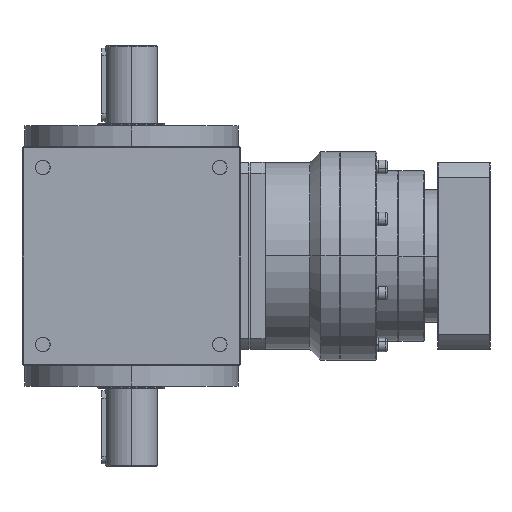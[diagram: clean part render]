
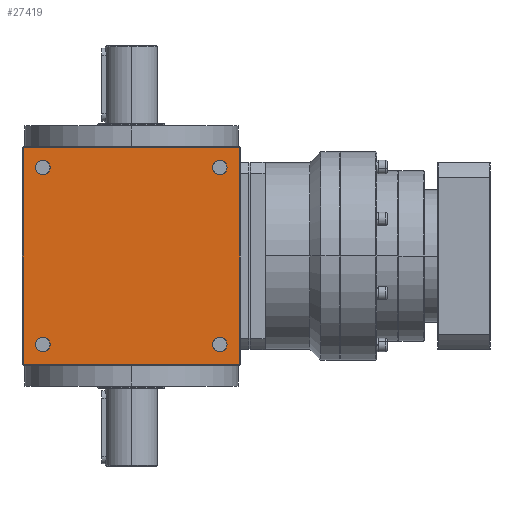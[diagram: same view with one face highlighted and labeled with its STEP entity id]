
A CAD part, left-side view. The second image highlights one B-rep face of the part: STEP entity #27419.
In plain terms, the highlighted planar face has unit normal (-1, 0, 0).
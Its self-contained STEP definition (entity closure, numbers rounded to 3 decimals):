
#363 = EDGE_CURVE ( 'NONE', #33959, #6062, #20639, .T. ) ;
#1979 = DIRECTION ( 'NONE',  ( 1., 0., 0. ) ) ;
#2288 = DIRECTION ( 'NONE',  ( 1., 0., 0. ) ) ;
#2766 = ORIENTED_EDGE ( 'NONE', *, *, #33970, .F. ) ;
#2853 = DIRECTION ( 'NONE',  ( 0., 0., 1. ) ) ;
#3125 = ORIENTED_EDGE ( 'NONE', *, *, #17263, .T. ) ;
#3466 = CARTESIAN_POINT ( 'NONE',  ( -105., 104., -104. ) ) ;
#3792 = DIRECTION ( 'NONE',  ( 0., 0., 1. ) ) ;
#4177 = VERTEX_POINT ( 'NONE', #6520 ) ;
#4468 = VERTEX_POINT ( 'NONE', #11828 ) ;
#4799 = CIRCLE ( 'NONE', #23836, 7. ) ;
#4985 = ORIENTED_EDGE ( 'NONE', *, *, #23437, .T. ) ;
#5572 = ORIENTED_EDGE ( 'NONE', *, *, #26301, .T. ) ;
#5775 = EDGE_LOOP ( 'NONE', ( #5572, #30427 ) ) ;
#5927 = VERTEX_POINT ( 'NONE', #15863 ) ;
#6062 = VERTEX_POINT ( 'NONE', #3466 ) ;
#6407 = AXIS2_PLACEMENT_3D ( 'NONE', #27458, #30232, #33871 ) ;
#6520 = CARTESIAN_POINT ( 'NONE',  ( -105., -85., 78. ) ) ;
#6638 = FACE_BOUND ( 'NONE', #40180, .T. ) ;
#6670 = DIRECTION ( 'NONE',  ( 0., 0., 1. ) ) ;
#6776 = CARTESIAN_POINT ( 'NONE',  ( -105., 85., 85. ) ) ;
#7060 = VERTEX_POINT ( 'NONE', #38900 ) ;
#8300 = CARTESIAN_POINT ( 'NONE',  ( -105., -104., 104. ) ) ;
#8910 = AXIS2_PLACEMENT_3D ( 'NONE', #20273, #13442, #29834 ) ;
#9349 = CARTESIAN_POINT ( 'NONE',  ( -105., 0., 104. ) ) ;
#9645 = FACE_BOUND ( 'NONE', #34473, .T. ) ;
#10042 = CARTESIAN_POINT ( 'NONE',  ( -105., -85., -78. ) ) ;
#10496 = CIRCLE ( 'NONE', #30915, 7. ) ;
#10697 = VERTEX_POINT ( 'NONE', #24180 ) ;
#10890 = AXIS2_PLACEMENT_3D ( 'NONE', #37393, #1979, #31621 ) ;
#10921 = VECTOR ( 'NONE', #22358, 1000. ) ;
#11034 = DIRECTION ( 'NONE',  ( 0., 0., -1. ) ) ;
#11828 = CARTESIAN_POINT ( 'NONE',  ( -105., -85., -92. ) ) ;
#12322 = CIRCLE ( 'NONE', #8910, 7. ) ;
#12553 = LINE ( 'NONE', #9349, #10921 ) ;
#12669 = CIRCLE ( 'NONE', #17426, 7. ) ;
#12882 = CARTESIAN_POINT ( 'NONE',  ( -105., 85., -85. ) ) ;
#13094 = CARTESIAN_POINT ( 'NONE',  ( -105., -104., -105. ) ) ;
#13224 = EDGE_CURVE ( 'NONE', #13965, #14263, #35497, .T. ) ;
#13257 = VECTOR ( 'NONE', #11034, 1000. ) ;
#13442 = DIRECTION ( 'NONE',  ( 1., 0., 0. ) ) ;
#13801 = CARTESIAN_POINT ( 'NONE',  ( -105., 104., -105. ) ) ;
#13965 = VERTEX_POINT ( 'NONE', #24539 ) ;
#14244 = ORIENTED_EDGE ( 'NONE', *, *, #13224, .T. ) ;
#14263 = VERTEX_POINT ( 'NONE', #8300 ) ;
#15599 = FACE_BOUND ( 'NONE', #5775, .T. ) ;
#15829 = EDGE_LOOP ( 'NONE', ( #3125, #24897 ) ) ;
#15863 = CARTESIAN_POINT ( 'NONE',  ( -105., 85., 78. ) ) ;
#16178 = DIRECTION ( 'NONE',  ( 1., 0., 0. ) ) ;
#16302 = ORIENTED_EDGE ( 'NONE', *, *, #33080, .T. ) ;
#16315 = CARTESIAN_POINT ( 'NONE',  ( -105., 105., -104. ) ) ;
#17263 = EDGE_CURVE ( 'NONE', #19210, #5927, #4799, .T. ) ;
#17426 = AXIS2_PLACEMENT_3D ( 'NONE', #12882, #39324, #38916 ) ;
#17624 = CIRCLE ( 'NONE', #21630, 7. ) ;
#17957 = VERTEX_POINT ( 'NONE', #10042 ) ;
#19210 = VERTEX_POINT ( 'NONE', #29694 ) ;
#19653 = FACE_BOUND ( 'NONE', #15829, .T. ) ;
#19734 = DIRECTION ( 'NONE',  ( 0., 1., 0. ) ) ;
#19970 = CARTESIAN_POINT ( 'NONE',  ( -105., 85., -78. ) ) ;
#20273 = CARTESIAN_POINT ( 'NONE',  ( -105., -85., 85. ) ) ;
#20639 = LINE ( 'NONE', #13801, #13257 ) ;
#21630 = AXIS2_PLACEMENT_3D ( 'NONE', #33015, #26184, #3792 ) ;
#21684 = EDGE_CURVE ( 'NONE', #5927, #19210, #39106, .T. ) ;
#21858 = EDGE_CURVE ( 'NONE', #4468, #17957, #10496, .T. ) ;
#22358 = DIRECTION ( 'NONE',  ( 0., 1., 0. ) ) ;
#22655 = PLANE ( 'NONE',  #42067 ) ;
#23437 = EDGE_CURVE ( 'NONE', #26686, #10697, #12669, .T. ) ;
#23836 = AXIS2_PLACEMENT_3D ( 'NONE', #6776, #16178, #32170 ) ;
#24180 = CARTESIAN_POINT ( 'NONE',  ( -105., 85., -92. ) ) ;
#24539 = CARTESIAN_POINT ( 'NONE',  ( -105., -104., -104. ) ) ;
#24897 = ORIENTED_EDGE ( 'NONE', *, *, #21684, .T. ) ;
#26184 = DIRECTION ( 'NONE',  ( 1., 0., 0. ) ) ;
#26301 = EDGE_CURVE ( 'NONE', #17957, #4468, #17624, .T. ) ;
#26686 = VERTEX_POINT ( 'NONE', #19970 ) ;
#26999 = EDGE_LOOP ( 'NONE', ( #14244, #39493, #40148, #2766 ) ) ;
#27419 = ADVANCED_FACE ( 'NONE', ( #29021, #9645, #6638, #15599, #19653 ), #22655, .T. ) ;
#27458 = CARTESIAN_POINT ( 'NONE',  ( -105., 85., 85. ) ) ;
#27864 = VECTOR ( 'NONE', #19734, 1000. ) ;
#28721 = DIRECTION ( 'NONE',  ( 0., 0., 1. ) ) ;
#29021 = FACE_OUTER_BOUND ( 'NONE', #26999, .T. ) ;
#29257 = CARTESIAN_POINT ( 'NONE',  ( -105., -85., 85. ) ) ;
#29694 = CARTESIAN_POINT ( 'NONE',  ( -105., 85., 92. ) ) ;
#29834 = DIRECTION ( 'NONE',  ( 0., 0., 1. ) ) ;
#29840 = ORIENTED_EDGE ( 'NONE', *, *, #34962, .T. ) ;
#30232 = DIRECTION ( 'NONE',  ( 1., 0., 0. ) ) ;
#30427 = ORIENTED_EDGE ( 'NONE', *, *, #21858, .T. ) ;
#30915 = AXIS2_PLACEMENT_3D ( 'NONE', #31503, #2288, #28721 ) ;
#31503 = CARTESIAN_POINT ( 'NONE',  ( -105., -85., -85. ) ) ;
#31621 = DIRECTION ( 'NONE',  ( 0., 0., 1. ) ) ;
#32170 = DIRECTION ( 'NONE',  ( 0., 0., 1. ) ) ;
#32231 = CARTESIAN_POINT ( 'NONE',  ( -105., 105., -105. ) ) ;
#32733 = CARTESIAN_POINT ( 'NONE',  ( -105., 104., 104. ) ) ;
#32952 = LINE ( 'NONE', #16315, #27864 ) ;
#33015 = CARTESIAN_POINT ( 'NONE',  ( -105., -85., -85. ) ) ;
#33080 = EDGE_CURVE ( 'NONE', #10697, #26686, #38805, .T. ) ;
#33546 = EDGE_CURVE ( 'NONE', #14263, #33959, #12553, .T. ) ;
#33871 = DIRECTION ( 'NONE',  ( 0., 0., 1. ) ) ;
#33959 = VERTEX_POINT ( 'NONE', #32733 ) ;
#33970 = EDGE_CURVE ( 'NONE', #13965, #6062, #32952, .T. ) ;
#34473 = EDGE_LOOP ( 'NONE', ( #36715, #29840 ) ) ;
#34962 = EDGE_CURVE ( 'NONE', #4177, #7060, #12322, .T. ) ;
#35272 = DIRECTION ( 'NONE',  ( 1., 0., 0. ) ) ;
#35497 = LINE ( 'NONE', #13094, #40476 ) ;
#36715 = ORIENTED_EDGE ( 'NONE', *, *, #41935, .T. ) ;
#37393 = CARTESIAN_POINT ( 'NONE',  ( -105., 85., -85. ) ) ;
#38392 = CIRCLE ( 'NONE', #41100, 7. ) ;
#38805 = CIRCLE ( 'NONE', #10890, 7. ) ;
#38900 = CARTESIAN_POINT ( 'NONE',  ( -105., -85., 92. ) ) ;
#38916 = DIRECTION ( 'NONE',  ( 0., 0., 1. ) ) ;
#39064 = DIRECTION ( 'NONE',  ( 0., -1., 0. ) ) ;
#39106 = CIRCLE ( 'NONE', #6407, 7. ) ;
#39324 = DIRECTION ( 'NONE',  ( 1., 0., 0. ) ) ;
#39493 = ORIENTED_EDGE ( 'NONE', *, *, #33546, .T. ) ;
#40148 = ORIENTED_EDGE ( 'NONE', *, *, #363, .T. ) ;
#40180 = EDGE_LOOP ( 'NONE', ( #4985, #16302 ) ) ;
#40476 = VECTOR ( 'NONE', #2853, 1000. ) ;
#41100 = AXIS2_PLACEMENT_3D ( 'NONE', #29257, #35272, #6670 ) ;
#41935 = EDGE_CURVE ( 'NONE', #7060, #4177, #38392, .T. ) ;
#42033 = DIRECTION ( 'NONE',  ( -1., 0., 0. ) ) ;
#42067 = AXIS2_PLACEMENT_3D ( 'NONE', #32231, #42033, #39064 ) ;
